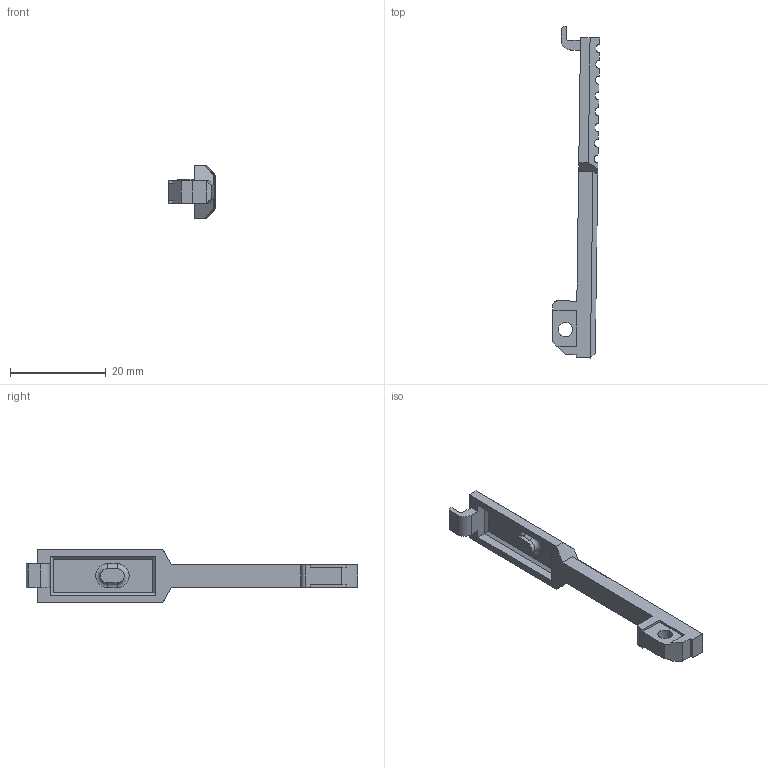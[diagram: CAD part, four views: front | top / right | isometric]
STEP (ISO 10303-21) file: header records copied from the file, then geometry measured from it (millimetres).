
FILE_DESCRIPTION(('HOOPS Exchange Step'),'2;1');
FILE_NAME('/private/var/mobile/Containers/Data/Application/B41F1AF9-3ED7-45D6-8FBD-F140B762F35E/tmp/export/temp_export','2026-08-08T09:07:07-05:00',('mobile'),('Shapr3D Limited'),'HOOPS Exchange 2026.3','Shapr3D','Authorized');
FILE_SCHEMA( ('AP242_MANAGED_MODEL_BASED_3D_ENGINEERING_MIM_LF {1 0 10303 442 1 1 4}') );
Length unit declared in the file: millimetre
Products named in the file (4): Flashlight button; DONE; Flashlight button.step; root
Assembly tree (3 placements, depth 4):
  root
    Flashlight button.step
      DONE
        Flashlight button
Bounding box: 9.89 x 69.45 x 11.02 mm (x, y, z)
Volume: 1548.5 mm3; surface area: 1920.5 mm2
Topology: 1 solids, 1 shells, 105 faces, 295 edges, 194 vertices
Faces by surface type: plane 79, cylinder 24, torus 2
Full cylindrical faces by diameter (mm): 3 x1
Entity records: 3434 total; most frequent: CARTESIAN_POINT 692, ORIENTED_EDGE 590, DIRECTION 509, EDGE_CURVE 295, VECTOR 243, LINE 243, VERTEX_POINT 194, AXIS2_PLACEMENT_3D 133
